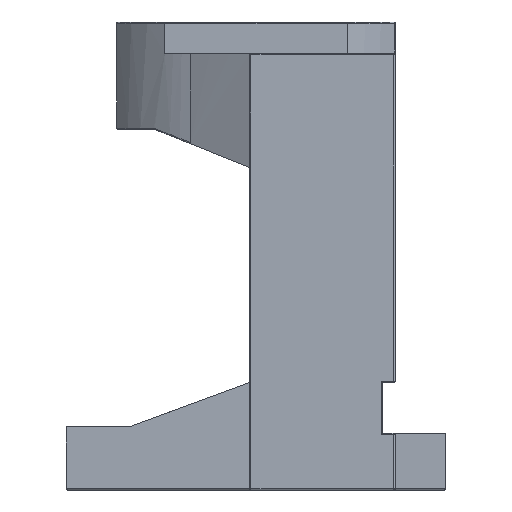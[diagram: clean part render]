
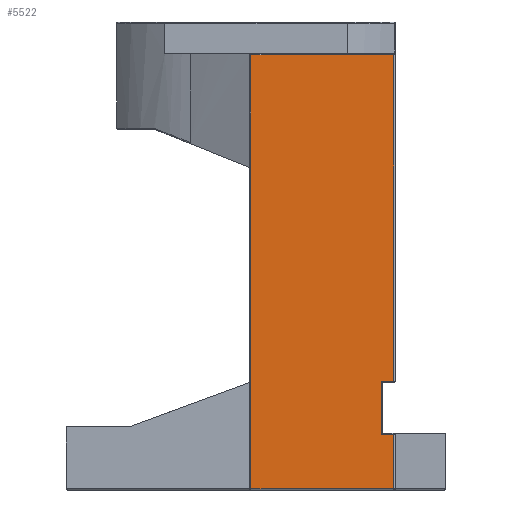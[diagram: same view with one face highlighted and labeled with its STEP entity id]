
A CAD part, left-side view. The second image highlights one B-rep face of the part: STEP entity #5522.
In plain terms, the highlighted planar face has unit normal (-1, 0, 0).
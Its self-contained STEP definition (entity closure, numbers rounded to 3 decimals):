
#118 = FACE_OUTER_BOUND ( 'NONE', #4758, .T. ) ;
#352 = EDGE_CURVE ( 'NONE', #3169, #1774, #4024, .T. ) ;
#361 = VERTEX_POINT ( 'NONE', #4342 ) ;
#411 = CARTESIAN_POINT ( 'NONE',  ( -32.5, 0.8, -5. ) ) ;
#423 = DIRECTION ( 'NONE',  ( 0., 0., -1. ) ) ;
#872 = VECTOR ( 'NONE', #2174, 1000. ) ;
#983 = CARTESIAN_POINT ( 'NONE',  ( -32.5, -21.8, 12.2 ) ) ;
#1094 = EDGE_CURVE ( 'NONE', #1774, #1610, #5923, .T. ) ;
#1117 = DIRECTION ( 'NONE',  ( 0., 1., 0. ) ) ;
#1159 = CARTESIAN_POINT ( 'NONE',  ( -32.5, -22., 63.8 ) ) ;
#1184 = CARTESIAN_POINT ( 'NONE',  ( -32.5, -22., 64. ) ) ;
#1187 = CARTESIAN_POINT ( 'NONE',  ( -32.5, -20., 3.8 ) ) ;
#1194 = DIRECTION ( 'NONE',  ( 0., 1., 0. ) ) ;
#1230 = CARTESIAN_POINT ( 'NONE',  ( -32.5, -21.8, 63.8 ) ) ;
#1350 = ORIENTED_EDGE ( 'NONE', *, *, #2074, .T. ) ;
#1466 = CARTESIAN_POINT ( 'NONE',  ( -32.5, 0.8, -4.8 ) ) ;
#1496 = VECTOR ( 'NONE', #4388, 1000. ) ;
#1610 = VERTEX_POINT ( 'NONE', #5114 ) ;
#1774 = VERTEX_POINT ( 'NONE', #3565 ) ;
#1820 = ORIENTED_EDGE ( 'NONE', *, *, #3575, .T. ) ;
#1921 = VECTOR ( 'NONE', #2839, 1000. ) ;
#1954 = PLANE ( 'NONE',  #5547 ) ;
#2074 = EDGE_CURVE ( 'NONE', #1610, #361, #4568, .T. ) ;
#2134 = VERTEX_POINT ( 'NONE', #5234 ) ;
#2174 = DIRECTION ( 'NONE',  ( 0., 0., 1. ) ) ;
#2232 = CARTESIAN_POINT ( 'NONE',  ( -32.5, -21.8, -4.8 ) ) ;
#2238 = CARTESIAN_POINT ( 'NONE',  ( -32.5, -21.8, 64. ) ) ;
#2301 = CARTESIAN_POINT ( 'NONE',  ( -32.5, -22., -4.8 ) ) ;
#2314 = DIRECTION ( 'NONE',  ( 0., -1., 0. ) ) ;
#2452 = LINE ( 'NONE', #2301, #4708 ) ;
#2461 = VECTOR ( 'NONE', #1117, 1000. ) ;
#2824 = CARTESIAN_POINT ( 'NONE',  ( -32.5, -22., 12.2 ) ) ;
#2839 = DIRECTION ( 'NONE',  ( 0., -1., 0. ) ) ;
#2916 = EDGE_CURVE ( 'NONE', #361, #3671, #5626, .T. ) ;
#3161 = EDGE_CURVE ( 'NONE', #3671, #6189, #3434, .T. ) ;
#3169 = VERTEX_POINT ( 'NONE', #2232 ) ;
#3193 = DIRECTION ( 'NONE',  ( -1., 0., 0. ) ) ;
#3218 = DIRECTION ( 'NONE',  ( 0., 1., 0. ) ) ;
#3434 = LINE ( 'NONE', #2238, #872 ) ;
#3565 = CARTESIAN_POINT ( 'NONE',  ( -32.5, -21.8, 3.8 ) ) ;
#3575 = EDGE_CURVE ( 'NONE', #6189, #2134, #3730, .T. ) ;
#3671 = VERTEX_POINT ( 'NONE', #983 ) ;
#3730 = LINE ( 'NONE', #1159, #2461 ) ;
#3884 = EDGE_CURVE ( 'NONE', #2134, #5479, #5765, .T. ) ;
#4024 = LINE ( 'NONE', #4396, #1496 ) ;
#4046 = ORIENTED_EDGE ( 'NONE', *, *, #3884, .T. ) ;
#4342 = CARTESIAN_POINT ( 'NONE',  ( -32.5, -19.8, 12.2 ) ) ;
#4388 = DIRECTION ( 'NONE',  ( 0., 0., 1. ) ) ;
#4396 = CARTESIAN_POINT ( 'NONE',  ( -32.5, -21.8, 4. ) ) ;
#4447 = EDGE_CURVE ( 'NONE', #5479, #3169, #2452, .T. ) ;
#4492 = VECTOR ( 'NONE', #1194, 1000. ) ;
#4525 = ORIENTED_EDGE ( 'NONE', *, *, #3161, .T. ) ;
#4568 = LINE ( 'NONE', #5937, #5704 ) ;
#4634 = VECTOR ( 'NONE', #423, 1000. ) ;
#4708 = VECTOR ( 'NONE', #2314, 1000. ) ;
#4758 = EDGE_LOOP ( 'NONE', ( #4525, #1820, #4046, #5059, #5655, #5361, #1350, #6173 ) ) ;
#5059 = ORIENTED_EDGE ( 'NONE', *, *, #4447, .T. ) ;
#5114 = CARTESIAN_POINT ( 'NONE',  ( -32.5, -19.8, 3.8 ) ) ;
#5234 = CARTESIAN_POINT ( 'NONE',  ( -32.5, 0.8, 63.8 ) ) ;
#5357 = DIRECTION ( 'NONE',  ( 0., 0., 1. ) ) ;
#5361 = ORIENTED_EDGE ( 'NONE', *, *, #1094, .T. ) ;
#5479 = VERTEX_POINT ( 'NONE', #1466 ) ;
#5522 = ADVANCED_FACE ( 'NONE', ( #118 ), #1954, .T. ) ;
#5547 = AXIS2_PLACEMENT_3D ( 'NONE', #1184, #3193, #3218 ) ;
#5626 = LINE ( 'NONE', #2824, #1921 ) ;
#5655 = ORIENTED_EDGE ( 'NONE', *, *, #352, .T. ) ;
#5704 = VECTOR ( 'NONE', #5357, 1000. ) ;
#5765 = LINE ( 'NONE', #411, #4634 ) ;
#5923 = LINE ( 'NONE', #1187, #4492 ) ;
#5937 = CARTESIAN_POINT ( 'NONE',  ( -32.5, -19.8, 12. ) ) ;
#6173 = ORIENTED_EDGE ( 'NONE', *, *, #2916, .T. ) ;
#6189 = VERTEX_POINT ( 'NONE', #1230 ) ;
